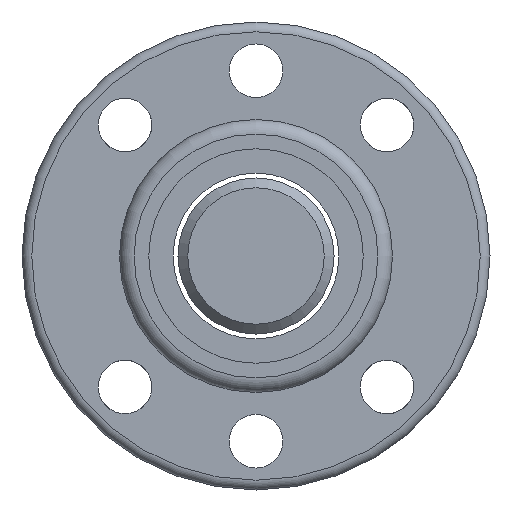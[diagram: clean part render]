
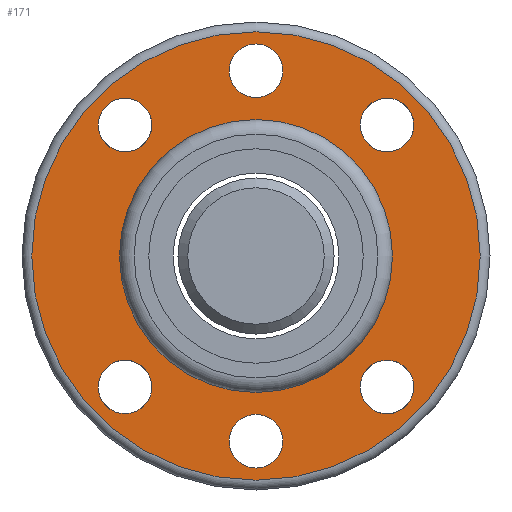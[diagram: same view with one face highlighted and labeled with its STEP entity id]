
A CAD part, left-side view. The second image highlights one B-rep face of the part: STEP entity #171.
In plain terms, the highlighted planar face has unit normal (-1, 0, 0).
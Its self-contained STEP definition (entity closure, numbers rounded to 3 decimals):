
#125=PLANE('',#691);
#140=FACE_OUTER_BOUND('',#345,.T.);
#171=ADVANCED_FACE('',(#249,#250,#251,#252,#253,#254,#140,#255),#125,.F.);
#249=FACE_BOUND('',#339,.T.);
#250=FACE_BOUND('',#340,.T.);
#251=FACE_BOUND('',#341,.T.);
#252=FACE_BOUND('',#342,.T.);
#253=FACE_BOUND('',#343,.T.);
#254=FACE_BOUND('',#344,.T.);
#255=FACE_BOUND('',#346,.T.);
#339=EDGE_LOOP('',(#437));
#340=EDGE_LOOP('',(#438));
#341=EDGE_LOOP('',(#439));
#342=EDGE_LOOP('',(#440));
#343=EDGE_LOOP('',(#441));
#344=EDGE_LOOP('',(#442));
#345=EDGE_LOOP('',(#443));
#346=EDGE_LOOP('',(#444));
#437=ORIENTED_EDGE('',*,*,#562,.T.);
#438=ORIENTED_EDGE('',*,*,#563,.T.);
#439=ORIENTED_EDGE('',*,*,#564,.T.);
#440=ORIENTED_EDGE('',*,*,#565,.T.);
#441=ORIENTED_EDGE('',*,*,#566,.T.);
#442=ORIENTED_EDGE('',*,*,#567,.T.);
#443=ORIENTED_EDGE('',*,*,#568,.F.);
#444=ORIENTED_EDGE('',*,*,#560,.T.);
#511=VERTEX_POINT('',#986);
#513=VERTEX_POINT('',#991);
#514=VERTEX_POINT('',#993);
#515=VERTEX_POINT('',#995);
#516=VERTEX_POINT('',#997);
#517=VERTEX_POINT('',#999);
#518=VERTEX_POINT('',#1001);
#519=VERTEX_POINT('',#1003);
#560=EDGE_CURVE('',#511,#511,#609,.T.);
#562=EDGE_CURVE('',#513,#513,#611,.T.);
#563=EDGE_CURVE('',#514,#514,#612,.T.);
#564=EDGE_CURVE('',#515,#515,#613,.T.);
#565=EDGE_CURVE('',#516,#516,#614,.T.);
#566=EDGE_CURVE('',#517,#517,#615,.T.);
#567=EDGE_CURVE('',#518,#518,#616,.T.);
#568=EDGE_CURVE('',#519,#519,#617,.T.);
#609=CIRCLE('',#681,14.);
#611=CIRCLE('',#684,2.75);
#612=CIRCLE('',#685,2.75);
#613=CIRCLE('',#686,2.75);
#614=CIRCLE('',#687,2.75);
#615=CIRCLE('',#688,2.75);
#616=CIRCLE('',#689,2.75);
#617=CIRCLE('',#690,23.);
#681=AXIS2_PLACEMENT_3D('',#985,#820,#821);
#684=AXIS2_PLACEMENT_3D('',#990,#826,#827);
#685=AXIS2_PLACEMENT_3D('',#992,#828,#829);
#686=AXIS2_PLACEMENT_3D('',#994,#830,#831);
#687=AXIS2_PLACEMENT_3D('',#996,#832,#833);
#688=AXIS2_PLACEMENT_3D('',#998,#834,#835);
#689=AXIS2_PLACEMENT_3D('',#1000,#836,#837);
#690=AXIS2_PLACEMENT_3D('',#1002,#838,#839);
#691=AXIS2_PLACEMENT_3D('',#1004,#840,#841);
#820=DIRECTION('',(1.,0.,0.));
#821=DIRECTION('',(0.,1.,0.));
#826=DIRECTION('',(1.,0.,0.));
#827=DIRECTION('',(0.,1.,0.));
#828=DIRECTION('',(1.,0.,0.));
#829=DIRECTION('',(0.,1.,0.));
#830=DIRECTION('',(1.,0.,0.));
#831=DIRECTION('',(0.,1.,0.));
#832=DIRECTION('',(1.,0.,0.));
#833=DIRECTION('',(0.,1.,0.));
#834=DIRECTION('',(1.,0.,0.));
#835=DIRECTION('',(0.,1.,0.));
#836=DIRECTION('',(1.,0.,0.));
#837=DIRECTION('',(0.,1.,0.));
#838=DIRECTION('',(1.,0.,0.));
#839=DIRECTION('',(0.,1.,0.));
#840=DIRECTION('',(1.,0.,0.));
#841=DIRECTION('',(0.,1.,0.));
#985=CARTESIAN_POINT('',(-25.,0.,0.));
#986=CARTESIAN_POINT('',(-25.,14.,0.));
#990=CARTESIAN_POINT('',(-25.,13.435,13.435));
#991=CARTESIAN_POINT('',(-25.,16.185,13.435));
#992=CARTESIAN_POINT('',(-25.,13.435,-13.435));
#993=CARTESIAN_POINT('',(-25.,16.185,-13.435));
#994=CARTESIAN_POINT('',(-25.,0.,-19.));
#995=CARTESIAN_POINT('',(-25.,2.75,-19.));
#996=CARTESIAN_POINT('',(-25.,-13.435,-13.435));
#997=CARTESIAN_POINT('',(-25.,-10.685,-13.435));
#998=CARTESIAN_POINT('',(-25.,-13.435,13.435));
#999=CARTESIAN_POINT('',(-25.,-10.685,13.435));
#1000=CARTESIAN_POINT('',(-25.,0.,19.));
#1001=CARTESIAN_POINT('',(-25.,2.75,19.));
#1002=CARTESIAN_POINT('',(-25.,0.,0.));
#1003=CARTESIAN_POINT('',(-25.,23.,0.));
#1004=CARTESIAN_POINT('',(-25.,18.5,0.));
